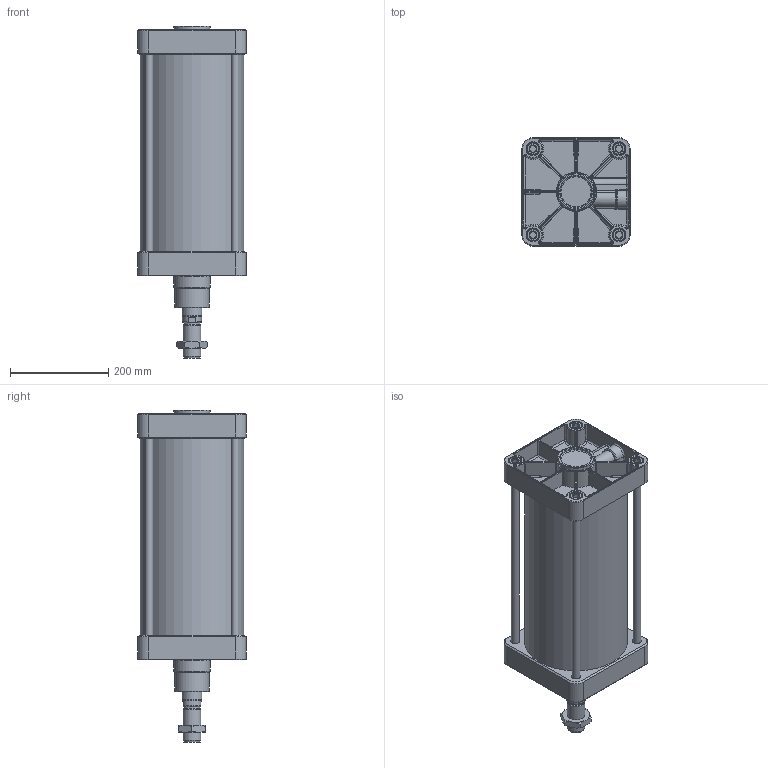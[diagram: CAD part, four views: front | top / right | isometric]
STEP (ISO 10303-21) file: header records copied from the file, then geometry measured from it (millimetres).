
FILE_DESCRIPTION(/* description */ ('Unknown'),/* implementation_level */ '2;1');
FILE_NAME(/* name */ 'UDM 200_320',/* time_stamp */ '2024-08-15T11:30:50+02:00',/* author */ ('Unknown'),/* organization */ ('Unknown'),/* preprocessor_version */ 'ST-DEVELOPER v16.7',/* originating_system */ 'Solid Edge',/* authorisation */ 'Unknown');
FILE_SCHEMA (('AUTOMOTIVE_DESIGN {1 0 10303 214 3 1 1}'));
Length unit declared in the file: millimetre
Products named in the file (7): UDM 200_320; Profilrohr 200_320; Mutter; Kolbenstange 200_320; Kit_1; Zugstange 200_320; Kit_2
Assembly tree (9 placements, depth 2):
  UDM 200_320
    Profilrohr 200_320
    Mutter
    Kolbenstange 200_320
    Kit_1
    Zugstange 200_320  x4
    Kit_2
Bounding box: 220 x 220 x 675 mm (x, y, z)
Volume: 7078720.2 mm3; surface area: 1332118.6 mm2
Topology: 9 solids, 13 shells, 1257 faces, 3096 edges, 1836 vertices
Faces by surface type: cylinder 396, plane 368, torus 191, bspline 154, cone 124, sphere 24
Full cylindrical faces by diameter (mm): 8 x2, 8.2 x2, 12 x2, 13.8 x4, 13.82 x4, 13.835 x8, 16 x6, 17.5 x8, 18 x2, 24.117 x2, 25 x8, 26 x8, 32.8 x1, 33.835 x1, 36 x3, 39 x1, 40 x1, 40.6 x3, 40.8 x1, 40.962 x1, 45 x2, 50 x2, 51.5 x1, 65 x1, 70 x1, 75 x2, 80 x1, 200 x2, 210 x1
Entity records: 52261 total; most frequent: CARTESIAN_POINT 16994, ORIENTED_EDGE 5810, DIRECTION 4880, EDGE_CURVE 2905, AXIS2_PLACEMENT_3D 1934, VERTEX_POINT 1799, EDGE_LOOP 1382, FACE_BOUND 1382
